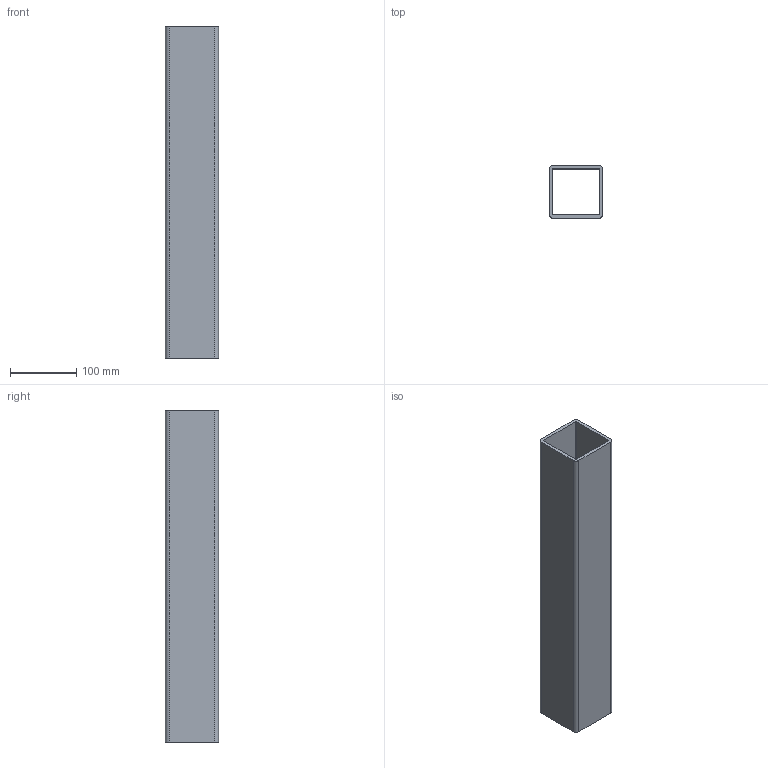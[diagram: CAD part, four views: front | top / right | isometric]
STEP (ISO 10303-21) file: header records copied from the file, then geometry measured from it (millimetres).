
FILE_DESCRIPTION((''),'2;1');
FILE_NAME('9527115000_ASM','2024-09-06T11:48:25',('Stephanie.Hoppe'),(''),'CREO PARAMETRIC BY PTC INC, 2022124','CREO PARAMETRIC BY PTC INC, 2022124','');
FILE_SCHEMA(('AUTOMOTIVE_DESIGN { 1 0 10303 214 1 1 1 1 }'));
Length unit declared in the file: millimetre
Products named in the file (2): 9207003000_AF0; 9527115000_ASM
Assembly tree (1 placements, depth 2):
  9527115000_ASM
    9207003000_AF0
Bounding box: 80 x 80 x 500 mm (x, y, z)
Volume: 734977.9 mm3; surface area: 296931.1 mm2
Topology: 1 solids, 1 shells, 18 faces, 56 edges, 48 vertices
Faces by surface type: plane 10, cylinder 8
Entity records: 2004 total; most frequent: DIRECTION 172, CARTESIAN_POINT 150, COLOUR_RGB 144, PROPERTY_DEFINITION 112, REPRESENTATION 111, PROPERTY_DEFINITION_REPRESENTATION 111, DESCRIPTIVE_REPRESENTATION_ITEM 99, GENERAL_PROPERTY 97
